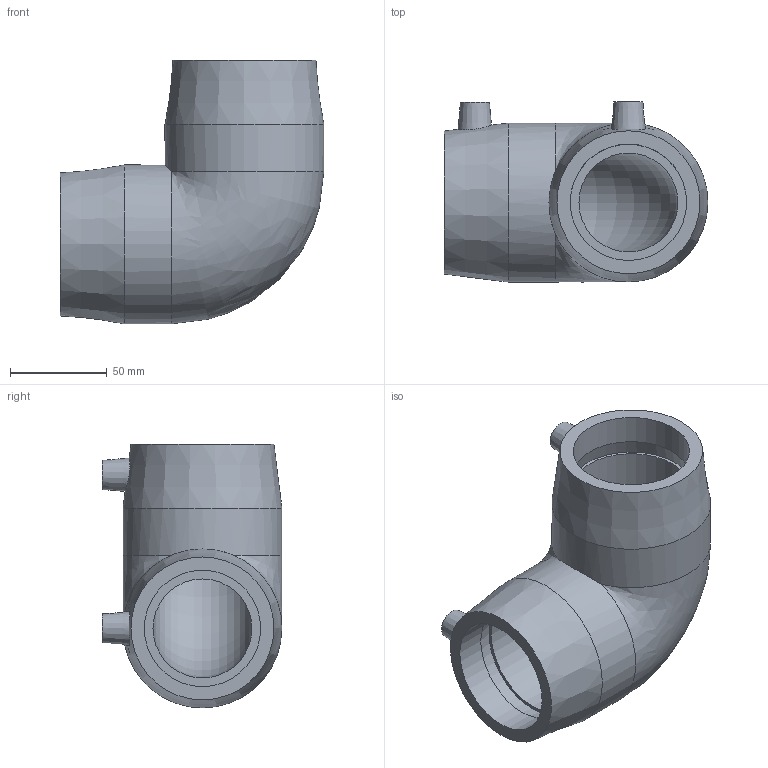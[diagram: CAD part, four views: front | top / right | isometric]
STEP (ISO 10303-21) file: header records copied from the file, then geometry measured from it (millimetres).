
FILE_DESCRIPTION(/* description */ ('PLASSON 90° ELBOW ASTM 2'''''),/* implementation_level */ '2;1');
FILE_NAME(/* name */ 'C:\Dropbox\KIMPROJECTS-Inventor 2019\99-16-3568-Processing Inch\ASTM ElectroFusion 2021\5905B\5905B003020.ipt.stp',/* time_stamp */ '2021-08-30T09:49:50+03:00',/* author */ ('KIM'),/* organization */ (''),/* preprocessor_version */ 'ST-DEVELOPER v17.2',/* originating_system */ 'Autodesk Inventor 2019',/* authorisation */ '');
FILE_SCHEMA (('AUTOMOTIVE_DESIGN { 1 0 10303 214 3 1 1 }'));
Length unit declared in the file: inch
Products named in the file (1): 5905B003020
Bounding box: 136.18 x 92.84 x 136.18 mm (x, y, z)
Volume: 445204.9 mm3; surface area: 82984.4 mm2
Topology: 1 solids, 1 shells, 30 faces, 66 edges, 46 vertices
Faces by surface type: plane 12, cylinder 10, cone 6, bspline 1, torus 1
Full cylindrical faces by diameter (mm): 4 x2, 10 x2, 60.1 x4, 82.042 x2
Entity records: 981 total; most frequent: CARTESIAN_POINT 235, DIRECTION 164, ORIENTED_EDGE 128, AXIS2_PLACEMENT_3D 74, EDGE_CURVE 64, VERTEX_POINT 46, CIRCLE 43, EDGE_LOOP 42
